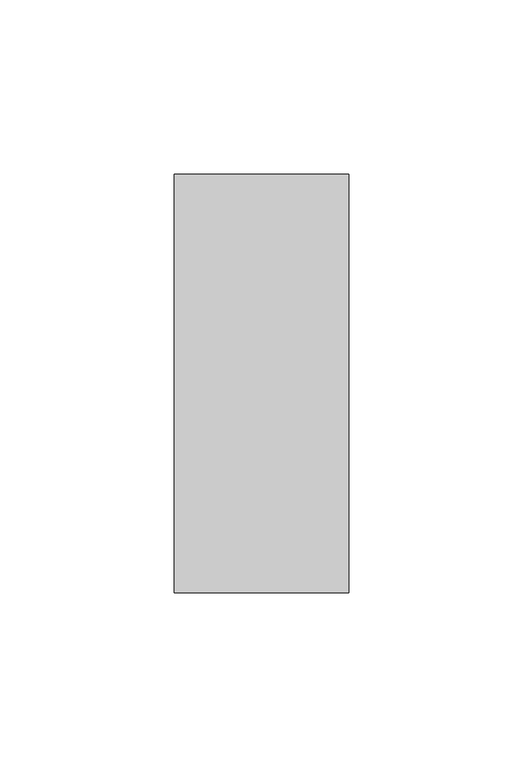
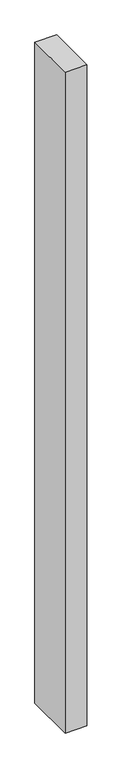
"""IFC4 building model written with IfcOpenShell, lengths in millimetres: member geometry, Прямоугольный импост : 50х120 мм."""

from ifc_helpers import new_model, si_unit, frame, origin, place, context, project, spatial, polyline, outline, extrude, source, transform, mapped, element, save


def member_ba40098e(model_context):
    return source(origin(), model_context, "Body", "SweptSolid", [
        extrude(outline(polyline([(0.0, 60.0), (0.0, -60.0), (-50.0, -60.0), (-50.0, 60.0), (0.0, 60.0)])), frame((0.0, 0.0, -1600.0), z_axis=(0.0, 0.0, 1.0), x_axis=(1.0, 0.0, 0.0)), (0.0, 0.0, 1.0), 1600.0),
    ])


if __name__ == "__main__":
    model = new_model("IFC4")
    model_context = context("Model", 3, world=origin())
    ifc_project = project(units=[si_unit("LENGTHUNIT", "METRE", prefix="MILLI")], contexts=[model_context])
    site = spatial("IfcSite", under=ifc_project)
    building = spatial("IfcBuilding", under=site)
    placement = place(None, origin())
    member_shape = member_ba40098e(model_context)
    element("IfcMember", 1, ObjectType="Прямоугольный импост : 50х120 мм", at=placement, inside=building, context=model_context, shape_type="MappedRepresentation", body=[
        mapped(member_shape, transform((0.0, 0.0, 0.0), x_axis=(1.0, 0.0, 0.0), y_axis=(0.0, 1.0, 0.0), z_axis=(0.0, 0.0, 1.0))),
    ])
    save(model, "model.ifc")
